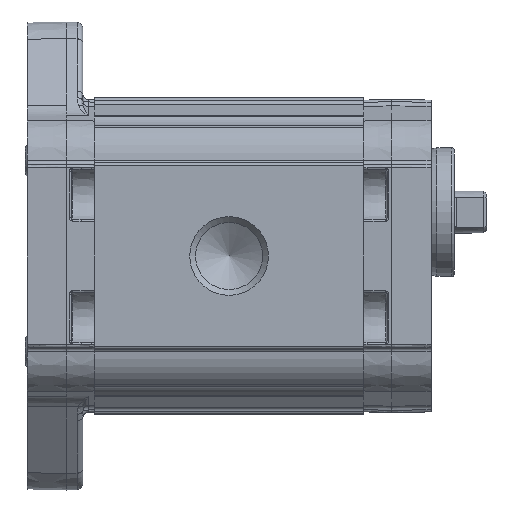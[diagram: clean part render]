
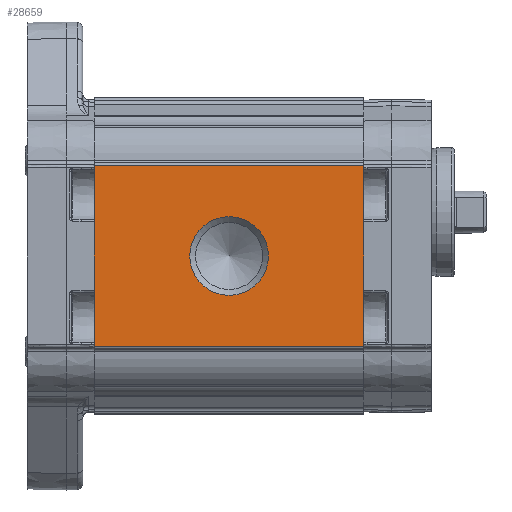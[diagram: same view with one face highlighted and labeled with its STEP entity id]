
A CAD part, left-side view. The second image highlights one B-rep face of the part: STEP entity #28659.
In plain terms, the highlighted planar face has unit normal (-1, 0, 0).
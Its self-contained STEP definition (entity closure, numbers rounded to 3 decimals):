
#2470=CIRCLE('',#30423,6.723);
#5408=ORIENTED_EDGE('',*,*,#10258,.T.);
#5409=ORIENTED_EDGE('',*,*,#10259,.F.);
#5410=ORIENTED_EDGE('',*,*,#10257,.F.);
#5411=ORIENTED_EDGE('',*,*,#10260,.T.);
#5412=ORIENTED_EDGE('',*,*,#10261,.T.);
#10257=EDGE_CURVE('',#12829,#12828,#14376,.T.);
#10258=EDGE_CURVE('',#12830,#12830,#2470,.F.);
#10259=EDGE_CURVE('',#12828,#12831,#14377,.T.);
#10260=EDGE_CURVE('',#12829,#12832,#14378,.T.);
#10261=EDGE_CURVE('',#12832,#12831,#14379,.T.);
#12828=VERTEX_POINT('',#48506);
#12829=VERTEX_POINT('',#48508);
#12830=VERTEX_POINT('',#48512);
#12831=VERTEX_POINT('',#48514);
#12832=VERTEX_POINT('',#48516);
#14376=LINE('',#48509,#15343);
#14377=LINE('',#48513,#15344);
#14378=LINE('',#48515,#15345);
#14379=LINE('',#48517,#15346);
#15343=VECTOR('',#34188,1000.);
#15344=VECTOR('',#34193,1000.);
#15345=VECTOR('',#34194,1000.);
#15346=VECTOR('',#34195,1000.);
#16525=EDGE_LOOP('',(#5408));
#16526=EDGE_LOOP('',(#5409,#5410,#5411,#5412));
#18039=FACE_BOUND('',#16525,.T.);
#18040=FACE_BOUND('',#16526,.T.);
#19086=PLANE('',#30422);
#28659=ADVANCED_FACE('',(#18039,#18040),#19086,.T.);
#30422=AXIS2_PLACEMENT_3D('',#48510,#34189,#34190);
#30423=AXIS2_PLACEMENT_3D('',#48511,#34191,#34192);
#34188=DIRECTION('',(0.,-1.,0.));
#34189=DIRECTION('',(-1.,0.,0.));
#34190=DIRECTION('',(0.,0.,1.));
#34191=DIRECTION('',(-1.,0.,0.));
#34192=DIRECTION('',(0.,0.,1.));
#34193=DIRECTION('',(0.,0.,-1.));
#34194=DIRECTION('',(0.,0.,-1.));
#34195=DIRECTION('',(0.,-1.,0.));
#48506=CARTESIAN_POINT('',(-25.,0.,15.418));
#48508=CARTESIAN_POINT('',(-25.,46.,15.418));
#48509=CARTESIAN_POINT('',(-25.,46.,15.418));
#48510=CARTESIAN_POINT('',(-25.,46.,15.418));
#48511=CARTESIAN_POINT('',(-25.,23.,0.));
#48512=CARTESIAN_POINT('',(-25.,23.,6.723));
#48513=CARTESIAN_POINT('',(-25.,0.,15.418));
#48514=CARTESIAN_POINT('',(-25.,0.,-15.418));
#48515=CARTESIAN_POINT('',(-25.,46.,15.418));
#48516=CARTESIAN_POINT('',(-25.,46.,-15.418));
#48517=CARTESIAN_POINT('',(-25.,46.,-15.418));
